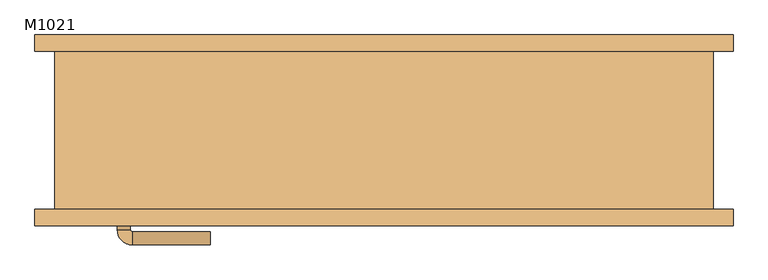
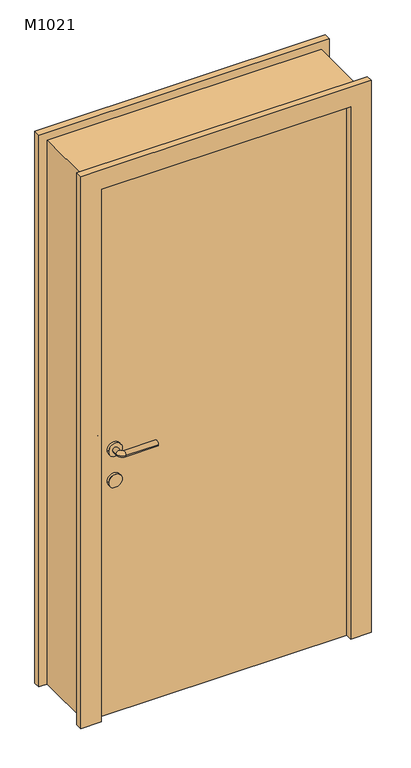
"""IFC4 building model written with IfcOpenShell, lengths in millimetres: door geometry, 单嵌板木门 1 : M1021."""

from ifc_helpers import new_model, si_unit, point, frame, frame_2d, origin, origin_with_axes, place, context, project, spatial, polyline, circle_curve, ellipse_curve, trimmed, segment, composite_curve, outline, extrude, source, transform, mapped, element, save
from ifc_brep_helpers import plane_surface, cylinder_surface, revolved_surface, advanced_brep


def m1021_7d4f1ed1(model_context):
    return source(origin(), model_context, "Body", "SolidModel", [
        extrude(outline(composite_curve([segment(trimmed(circle_curve(frame_2d((900.0, -395.0)), 25.0), [point((900.0, -370.0))], [point((900.0, -420.0))], False, "CARTESIAN"), True, "CONTINUOUS"), segment(trimmed(circle_curve(frame_2d((900.0, -395.0)), 25.0), [point((900.0, -420.0))], [point((900.0, -370.0))], False, "CARTESIAN"), True, "CONTINUOUS")], self_intersect=False)), frame((0.0, -70.0, 0.0), z_axis=(0.0, 1.0, 0.0), x_axis=(0.0, 0.0, 1.0)), (0.0, 0.0, 1.0), 10.0),
        extrude(outline(composite_curve([segment(trimmed(circle_curve(frame_2d((900.0, -395.0)), 25.0), [point((900.0, -370.0))], [point((900.0, -420.0))], False, "CARTESIAN"), True, "CONTINUOUS"), segment(trimmed(circle_curve(frame_2d((900.0, -395.0)), 25.0), [point((900.0, -420.0))], [point((900.0, -370.0))], False, "CARTESIAN"), True, "CONTINUOUS")], self_intersect=False)), frame((0.0, -130.0, 0.0), z_axis=(0.0, 1.0, 0.0), x_axis=(0.0, 0.0, 1.0)), (0.0, 0.0, 1.0), 10.0),
        advanced_brep(
        [(-405.0, -60.0, 1020.0), (-385.0, -60.0, 1020.0), (-405.0, -39.386645, 1020.0), (-385.0, -39.386645, 1020.0), (-263.419036, -16.419036, 1020.0), (-263.419036, -36.419036, 1020.0), (-382.0323911, -36.419036, 1020.0), (-382.0323911, -16.419036, 1020.0)],
        [
            (0, 1, circle_curve(frame((-395.0, -60.0, 1020.0), z_axis=(0.0, -1.0, 0.0), x_axis=(1.0, 0.0, 0.0)), 10.0)),
            (1, 0, circle_curve(frame((-395.0, -60.0, 1020.0), z_axis=(0.0, -1.0, 0.0), x_axis=(1.0, 0.0, 0.0)), 10.0)),
            (0, 2),
            (2, 3, circle_curve(frame((-395.0, -39.386645, 1020.0), z_axis=(0.0, -1.0, 0.0), x_axis=(1.0, 0.0, 0.0)), 10.0)),
            (3, 1),
            (3, 2, circle_curve(frame((-395.0, -39.386645, 1020.0), z_axis=(0.0, -1.0, 0.0), x_axis=(1.0, 0.0, 0.0)), 10.0)),
            (4, 5, circle_curve(frame((-263.419036, -26.419036, 1020.0), z_axis=(1.0, 0.0, 0.0), x_axis=(0.0, -1.0, 0.0)), 10.0)),
            (5, 4, circle_curve(frame((-263.419036, -26.419036, 1020.0), z_axis=(1.0, 0.0, 0.0), x_axis=(0.0, -1.0, 0.0)), 10.0)),
            (6, 7, circle_curve(frame((-382.0323911, -26.419036, 1020.0), z_axis=(-1.0, 0.0, 0.0), x_axis=(0.0, -1.0, 0.0)), 10.0)),
            (7, 2, circle_curve(frame((-382.0323911, -39.386645, 1020.0), z_axis=(0.0, 0.0, 1.0), x_axis=(-1.0, 0.0, 0.0)), 22.9676089)),
            (3, 6, circle_curve(frame((-382.0323911, -39.386645, 1020.0), z_axis=(0.0, 0.0, -1.0), x_axis=(-1.0, 0.0, 0.0)), 2.9676089)),
            (7, 6, circle_curve(frame((-382.0323911, -26.419036, 1020.0), z_axis=(-1.0, 0.0, 0.0), x_axis=(0.0, -1.0, 0.0)), 10.0)),
            (6, 5),
            (4, 7),
        ],
        [
            plane_surface(frame((-395.0, -60.0, 900.0), z_axis=(0.0, -1.0, 0.0), x_axis=(0.0, 0.0, 1.0))),
            cylinder_surface(frame((-395.0, -60.0, 1020.0), z_axis=(0.0, -1.0, 0.0), x_axis=(1.0, 0.0, 0.0)), 10.0),
            plane_surface(frame((-263.419036, -26.419036, 900.0), z_axis=(1.0, 0.0, 0.0), x_axis=(0.0, 0.0, 1.0))),
            revolved_surface(trimmed(ellipse_curve(frame((-395.0, -39.386645, 1020.0), z_axis=(0.0, 1.0, 0.0), x_axis=(1.0, 0.0, 0.0)), 10.0, 10.0), [point((-405.0, -39.386645, 1020.0))], [point((-385.0, -39.386645, 1020.0))], True, "CARTESIAN"), (-382.0323911, -39.386645, 900.0), (0.0, 0.0, 1.0)),
            revolved_surface(trimmed(ellipse_curve(frame((-395.0, -39.386645, 1020.0), z_axis=(0.0, 1.0, 0.0), x_axis=(1.0, 0.0, 0.0)), 10.0, 10.0), [point((-385.0, -39.386645, 1020.0))], [point((-405.0, -39.386645, 1020.0))], True, "CARTESIAN"), (-382.0323911, -39.386645, 900.0), (0.0, 0.0, 1.0)),
            cylinder_surface(frame((-382.0323911, -26.419036, 1020.0), z_axis=(-1.0, 0.0, 0.0), x_axis=(0.0, -1.0, 0.0)), 10.0),
        ],
        [
            (0, [[1, 2]]),
            (1, [[3, 4, 5, -1]]),
            (1, [[-5, 6, -3, -2]]),
            (2, [[7, 8]]),
            (3, [[9, 10, -6, 11]]),
            (4, [[12, -11, -4, -10]]),
            (5, [[13, -7, 14, -9]]),
            (5, [[-14, -8, -13, -12]]),
        ],
    ),
        extrude(outline(composite_curve([segment(trimmed(circle_curve(frame_2d((1020.0, -395.0)), 25.0), [point((1020.0, -370.0))], [point((1020.0, -420.0))], False, "CARTESIAN"), True, "CONTINUOUS"), segment(trimmed(circle_curve(frame_2d((1020.0, -395.0)), 25.0), [point((1020.0, -420.0))], [point((1020.0, -370.0))], False, "CARTESIAN"), True, "CONTINUOUS")], self_intersect=False)), frame((0.0, -70.0, 0.0), z_axis=(0.0, 1.0, 0.0), x_axis=(0.0, 0.0, 1.0)), (0.0, 0.0, 1.0), 10.0),
        advanced_brep(
        [(-385.0, -130.0, 1020.0), (-405.0, -130.0, 1020.0), (-405.0, -150.6133551, 1020.0), (-385.0, -150.6133551, 1020.0), (-263.419036, -153.580964, 1020.0), (-263.419036, -173.580964, 1020.0), (-382.0323911, -173.580964, 1020.0), (-382.0323911, -153.580964, 1020.0)],
        [
            (0, 1, circle_curve(frame((-395.0, -130.0, 1020.0), z_axis=(0.0, 1.0, 0.0), x_axis=(-1.0, 0.0, 0.0)), 10.0)),
            (1, 0, circle_curve(frame((-395.0, -130.0, 1020.0), z_axis=(0.0, 1.0, 0.0), x_axis=(-1.0, 0.0, 0.0)), 10.0)),
            (1, 2),
            (2, 3, circle_curve(frame((-395.0, -150.6133551, 1020.0), z_axis=(0.0, 1.0, 0.0), x_axis=(-1.0, 0.0, 0.0)), 10.0)),
            (3, 0),
            (3, 2, circle_curve(frame((-395.0, -150.6133551, 1020.0), z_axis=(0.0, 1.0, 0.0), x_axis=(-1.0, 0.0, 0.0)), 10.0)),
            (4, 5, circle_curve(frame((-263.419036, -163.580964, 1020.0), z_axis=(1.0, 0.0, 0.0), x_axis=(0.0, -1.0, 0.0)), 10.0)),
            (5, 4, circle_curve(frame((-263.419036, -163.580964, 1020.0), z_axis=(1.0, 0.0, 0.0), x_axis=(0.0, -1.0, 0.0)), 10.0)),
            (6, 7, circle_curve(frame((-382.0323911, -163.580964, 1020.0), z_axis=(-1.0, 0.0, 0.0), x_axis=(0.0, -1.0, 0.0)), 10.0)),
            (7, 3, circle_curve(frame((-382.0323911, -150.6133551, 1020.0), z_axis=(0.0, 0.0, -1.0), x_axis=(-1.0, 0.0, 0.0)), 2.9676089)),
            (2, 6, circle_curve(frame((-382.0323911, -150.6133551, 1020.0), z_axis=(0.0, 0.0, 1.0), x_axis=(-1.0, 0.0, 0.0)), 22.9676089)),
            (7, 6, circle_curve(frame((-382.0323911, -163.580964, 1020.0), z_axis=(-1.0, 0.0, 0.0), x_axis=(0.0, -1.0, 0.0)), 10.0)),
            (6, 5),
            (4, 7),
        ],
        [
            plane_surface(frame((-395.0, -130.0, 900.0), z_axis=(0.0, 1.0, 0.0), x_axis=(0.0, 0.0, 1.0))),
            cylinder_surface(frame((-395.0, -130.0, 1020.0), z_axis=(0.0, 1.0, 0.0), x_axis=(-1.0, 0.0, 0.0)), 10.0),
            plane_surface(frame((-263.419036, -163.580964, 900.0), z_axis=(1.0, 0.0, 0.0), x_axis=(0.0, 0.0, 1.0))),
            revolved_surface(trimmed(ellipse_curve(frame((-395.0, -150.6133551, 1020.0), z_axis=(0.0, -1.0, 0.0), x_axis=(-1.0, 0.0, 0.0)), 10.0, 10.0), [point((-385.0, -150.6133551, 1020.0))], [point((-405.0, -150.6133551, 1020.0))], True, "CARTESIAN"), (-382.0323911, -150.6133551, 900.0), (0.0, 0.0, -1.0)),
            revolved_surface(trimmed(ellipse_curve(frame((-395.0, -150.6133551, 1020.0), z_axis=(0.0, -1.0, 0.0), x_axis=(-1.0, 0.0, 0.0)), 10.0, 10.0), [point((-405.0, -150.6133551, 1020.0))], [point((-385.0, -150.6133551, 1020.0))], True, "CARTESIAN"), (-382.0323911, -150.6133551, 900.0), (0.0, 0.0, -1.0)),
            cylinder_surface(frame((-382.0323911, -163.580964, 1020.0), z_axis=(-1.0, 0.0, 0.0), x_axis=(0.0, -1.0, 0.0)), 10.0),
        ],
        [
            (0, [[1, 2]]),
            (1, [[3, 4, 5, -2]]),
            (1, [[-5, 6, -3, -1]]),
            (2, [[7, 8]]),
            (3, [[9, 10, -4, 11]]),
            (4, [[12, -11, -6, -10]]),
            (5, [[13, -7, 14, -9]]),
            (5, [[-14, -8, -13, -12]]),
        ],
    ),
        extrude(outline(composite_curve([segment(trimmed(circle_curve(frame_2d((1020.0, -395.0)), 25.0), [point((1020.0, -370.0))], [point((1020.0, -420.0))], False, "CARTESIAN"), True, "CONTINUOUS"), segment(trimmed(circle_curve(frame_2d((1020.0, -395.0)), 25.0), [point((1020.0, -420.0))], [point((1020.0, -370.0))], False, "CARTESIAN"), True, "CONTINUOUS")], self_intersect=False)), frame((0.0, -130.0, 0.0), z_axis=(0.0, 1.0, 0.0), x_axis=(0.0, 0.0, 1.0)), (0.0, 0.0, 1.0), 10.0),
        extrude(outline(polyline([(0.0, 530.0), (2130.0, 530.0), (2130.0, -530.0), (0.0, -530.0), (0.0, -455.0), (2055.0, -455.0), (2055.0, 455.0), (0.0, 455.0), (0.0, 530.0)])), frame((0.0, -145.0, 0.0), z_axis=(0.0, 1.0, 0.0), x_axis=(0.0, 0.0, 1.0)), (0.0, 0.0, 1.0), 25.0),
        extrude(outline(polyline([(2130.0, 530.0), (2130.0, -530.0), (0.0, -530.0), (0.0, -455.0), (2055.0, -455.0), (2055.0, 455.0), (0.0, 455.0), (0.0, 530.0), (2130.0, 530.0)])), frame((0.0, 120.0, 0.0), z_axis=(0.0, 1.0, 0.0), x_axis=(0.0, 0.0, 1.0)), (0.0, 0.0, 1.0), 25.0),
        extrude(outline(polyline([(455.0, -70.0), (455.0, -120.0), (-455.0, -120.0), (-455.0, -70.0), (455.0, -70.0)])), origin_with_axes(), (0.0, 0.0, 1.0), 2055.0),
        extrude(outline(polyline([(2100.0, -500.0), (0.0, -500.0), (0.0, -455.0), (2055.0, -455.0), (2055.0, 455.0), (0.0, 455.0), (0.0, 500.0), (2100.0, 500.0), (2100.0, -500.0)])), frame((0.0, -120.0, 0.0), z_axis=(0.0, 1.0, 0.0), x_axis=(0.0, 0.0, 1.0)), (0.0, 0.0, 1.0), 240.0),
    ])


if __name__ == "__main__":
    model = new_model("IFC4")
    model_context = context("Model", 3, world=origin())
    ifc_project = project(units=[si_unit("LENGTHUNIT", "METRE", prefix="MILLI")], contexts=[model_context])
    site = spatial("IfcSite", under=ifc_project)
    building = spatial("IfcBuilding", under=site)
    placement = place(None, origin())
    m1021_shape = m1021_7d4f1ed1(model_context)
    element("IfcDoor", 1, ObjectType="单嵌板木门 1 : M1021", at=placement, inside=building, context=model_context, shape_type="MappedRepresentation", body=[
        mapped(m1021_shape, transform((0.0, 0.0, 0.0), x_axis=(1.0, 0.0, 0.0), y_axis=(0.0, 1.0, 0.0), z_axis=(0.0, 0.0, 1.0))),
    ])
    save(model, "model.ifc")
